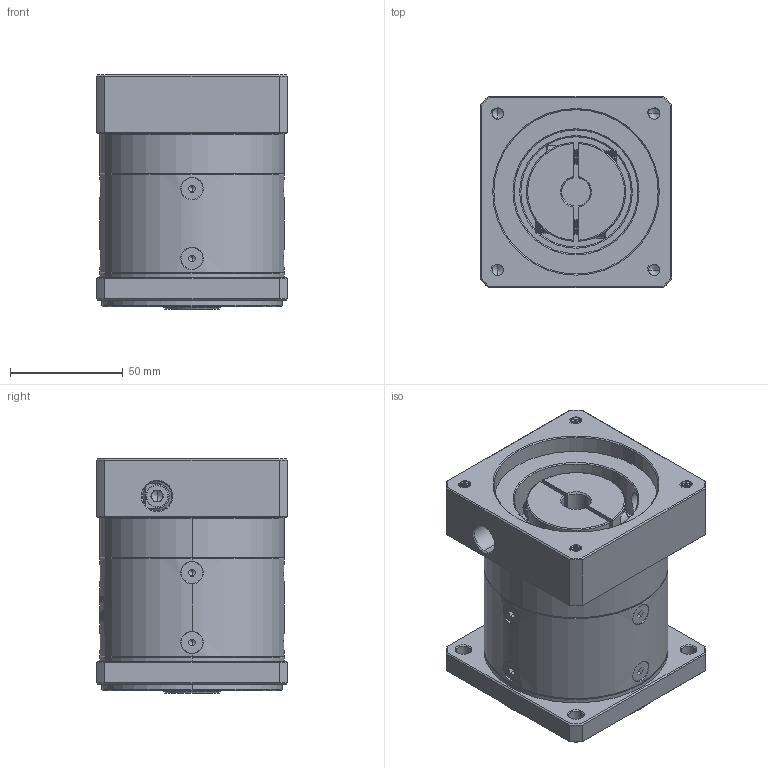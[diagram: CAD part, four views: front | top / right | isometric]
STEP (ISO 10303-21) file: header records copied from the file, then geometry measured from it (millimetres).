
FILE_DESCRIPTION (( 'STEP AP214' ), '1' );
FILE_NAME ('ZF80-K15-L1-12.7-73-69.5X69.5-M6.step', '2022-09-16T05:25:11', ( '' ), ( 'Microsoft' ), 'SwSTEP 2.0', 'SolidWorks 2016', '' );
FILE_SCHEMA (( 'AUTOMOTIVE_DESIGN' ));
Length unit declared in the file: millimetre
Products named in the file (1): ZF80-K15-L1-12.7-73-69.5X69.5-M6
Bounding box: 85 x 85 x 104 mm (x, y, z)
Volume: 528259.3 mm3; surface area: 87579 mm2
Topology: 13 solids, 13 shells, 1931 faces, 5007 edges, 3169 vertices
Faces by surface type: plane 889, cylinder 381, cone 334, bspline 310, torus 17
Entity records: 101660 total; most frequent: CARTESIAN_POINT 36648, ORIENTED_EDGE 9958, DIRECTION 7894, EDGE_CURVE 4979, VERTEX_POINT 3169, VECTOR 2724, LINE 2724, AXIS2_PLACEMENT_3D 2585
